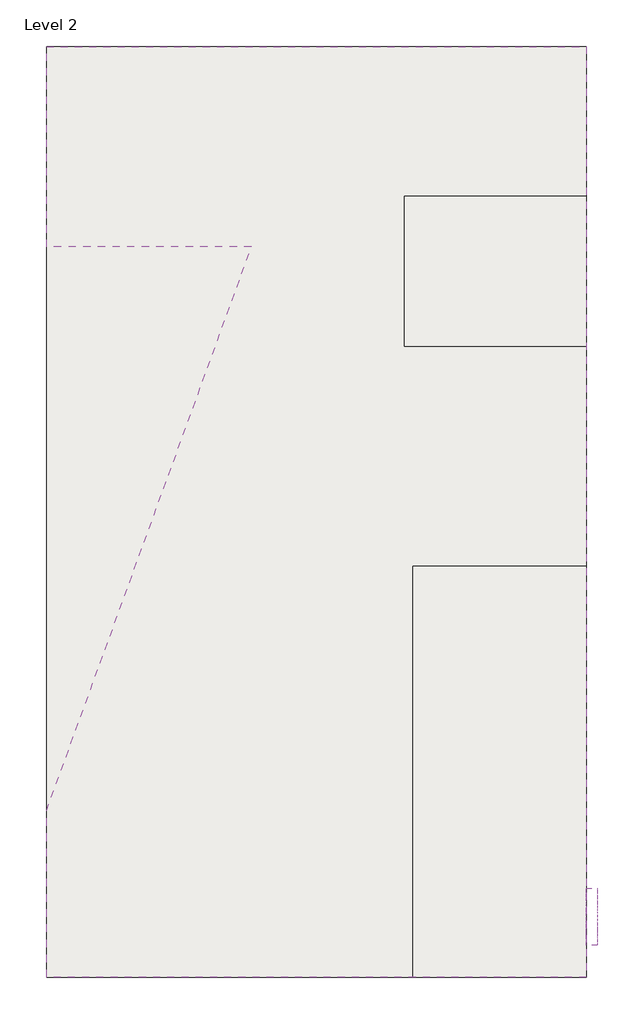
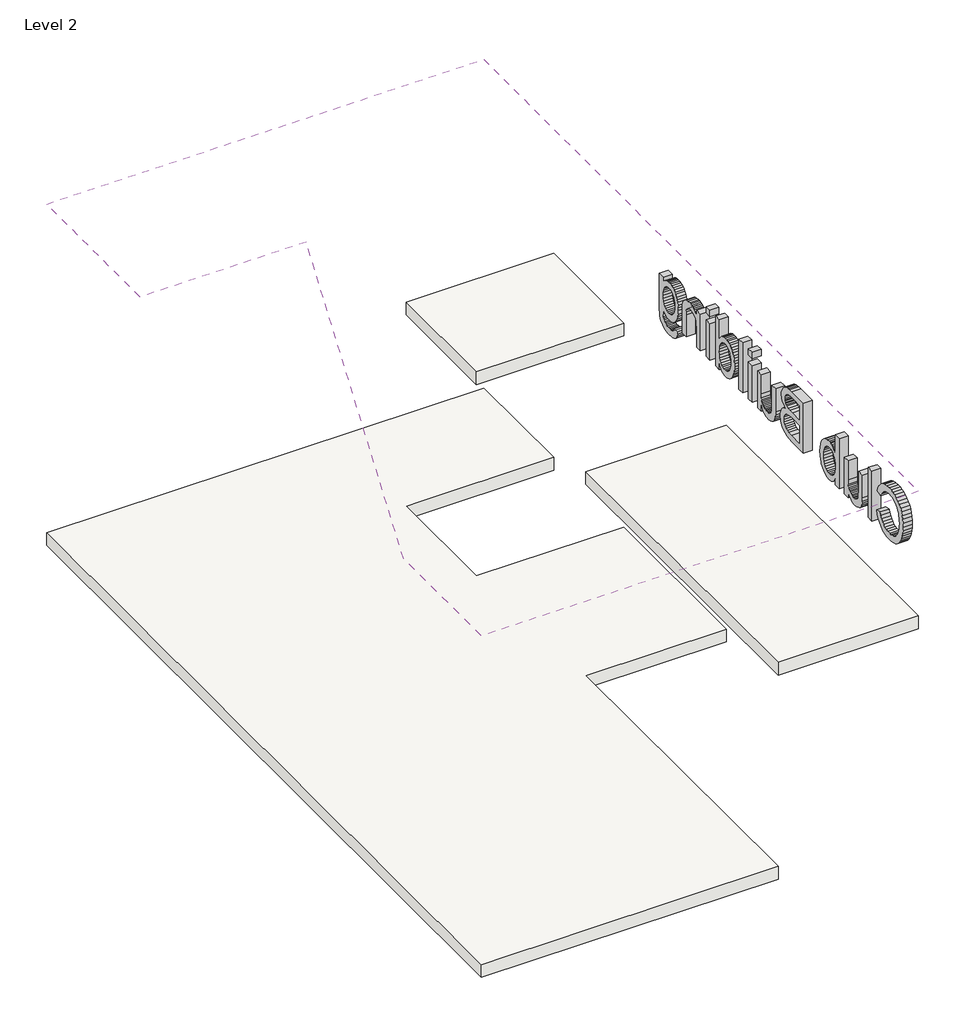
# One storey: 3 roofs, 1 proxy.
"""IFC4 building model written with IfcOpenShell, lengths in millimetres."""

from ifc_helpers import new_model, si_unit, frame, origin, place, context, project, spatial, polyline, outline, extrude, element, save

model = new_model("IFC4")

# Units and contexts
model_context = context("Model", 3, world=origin())
ifc_project = project(units=[si_unit("LENGTHUNIT", "METRE", prefix="MILLI")], contexts=[model_context])

# Site, building, storey
site = spatial("IfcSite", under=ifc_project)
building = spatial("IfcBuilding", under=site)
storey = spatial("IfcBuildingStorey", under=building, Name="Level 2", Elevation=3048.0)

# Proxy
placement = place(None, origin())
element("IfcBuildingElementProxy", 1, Name="36\" Arial", ObjectType="36\" Arial", at=placement, inside=storey, context=model_context, shape_type="SweptSolid", body=[
    extrude(outline(polyline([(3337.6745556, 4845.1334632), (3449.6192829, 4816.2727132), (3427.4681107, 4746.6557194), (3397.9650997, 4685.8254028), (3361.1102499, 4633.7817634), (3316.9035613, 4590.5248012), (3266.3425883, 4556.5191306), (3210.4248852, 4532.2293659), (3149.1504519, 4517.655507), (3082.5192886, 4512.7975541), (3014.2551424, 4516.4734735), (2952.6732438, 4527.5012316), (2897.7735927, 4545.8808286), (2849.5561891, 4571.6122643), (2807.3582744, 4604.3129152), (2770.5170897, 4643.6001578), (2739.0326352, 4689.4739919), (2712.9049107, 4741.9344177), (2692.3867213, 4798.7130239), (2677.7308717, 4857.5413993), (2668.9373619, 4918.4195438), (2666.006192, 4981.3474575), (2669.3199855, 5048.8668542), (2679.261366, 5111.9314191), (2695.8303335, 5170.5411525), (2719.026888, 5224.6960541), (2748.3317547, 5273.5010582), (2783.2256586, 5316.0610988), (2823.7085998, 5352.3761761), (2869.7805784, 5382.4462899), (2919.876937, 5406.025468), (2972.4330187, 5422.867738), (3027.4488234, 5432.9731001), (3084.9243511, 5436.3415541), (3148.9523076, 5431.9823783), (3207.6645293, 5418.904851), (3261.0610164, 5397.1089721), (3309.1417687, 5366.5947416), (3351.1142089, 5328.1684021), (3386.1857595, 5282.6361961), (3414.3564205, 5229.9981237), (3435.626192, 5170.2541848), (3323.6814647, 5143.5798552), (3306.0534498, 5187.6020646), (3284.8725016, 5225.2153289), (3260.1386203, 5256.4196484), (3231.8518056, 5281.2150228), (3199.8480762, 5300.1070621), (3163.9634505, 5313.6013758), (3124.1979285, 5321.6979641), (3080.5515102, 5324.3968268), (3030.3321654, 5321.4041638), (2984.4036707, 5312.4261748), (2942.7660261, 5297.4628598), (2905.4192318, 5276.5142189), (2872.8347344, 5250.5231457), (2845.483981, 5220.4325342), (2823.3669716, 5186.2423843), (2806.4837062, 5147.9526961), (2794.0006119, 5107.2989408), (2785.084116, 5066.0165896), (2779.7342184, 5024.1056425), (2777.9509193, 4981.5660995), (2780.0621815, 4928.1081194), (2786.3959683, 4878.148412), (2796.9522795, 4831.6869774), (2811.7311153, 4788.7238154), (2830.9716153, 4750.1129967), (2854.9129193, 4716.7085917), (2883.5550272, 4688.5106004), (2916.8979391, 4665.5190228), (2953.3223374, 4647.6791984), (2991.2089043, 4634.9364667), (3030.55764, 4627.2908277), (3071.3685443, 4624.7422814), (3120.0368971, 4628.2132238), (3164.8106884, 4638.6260512), (3205.6899184, 4655.9807636), (3242.6745869, 4680.2773609), (3274.8901258, 4711.4065221), (3301.4619668, 4749.2589262), (3322.3901101, 4793.8345733), (3337.6745556, 4845.1334632)])), frame((-622.4265962, 0.0, 0.0), z_axis=(1.0, 0.0, 0.0), x_axis=(0.0, 1.0, 0.0)), (0.0, 0.0, 1.0), 152.4),
    extrude(outline(polyline([(-470.0265962, 3701.4949193), (-470.0265962, 3589.550192), (-622.4265962, 3589.550192), (-622.4265962, 3701.4949193), (-470.0265962, 3701.4949193)])), frame((0.0, 0.0, 4526.790645), z_axis=(0.0, 0.0, 1.0), x_axis=(1.0, 0.0, 0.0)), (0.0, 0.0, 1.0), 895.5578182),
    extrude(outline(polyline([(4289.2047374, 4526.790645), (4289.2047374, 4639.8285825), (4269.7865908, 4610.0556852), (4248.7012985, 4584.2525076), (4225.9488607, 4562.4190496), (4201.5292772, 4544.5553112), (4175.4425482, 4530.6612925), (4147.6886735, 4520.7369934), (4118.2676533, 4514.7824139), (4087.1794874, 4512.7975541), (4032.6556274, 4518.3729262), (3981.9033426, 4535.0990427), (3939.3228042, 4560.2428779), (3922.7470041, 4574.9465555), (3909.3141835, 4591.0714064), (3889.1171245, 4628.5138566), (3875.9712715, 4673.4994575), (3871.0518255, 4715.9160143), (3869.4120102, 4777.5730711), (3869.4120102, 5184.4659177), (3981.3567374, 5184.4659177), (3981.3567374, 4830.2658041), (3983.0512133, 4759.4257814), (3988.1346409, 4716.1346564), (3994.8373861, 4695.9580951), (4004.4508035, 4678.0636102), (4016.9748932, 4662.4512016), (4032.4096551, 4649.1208694), (4050.2904748, 4638.4552371), (4070.1527382, 4630.8369284), (4091.996445, 4626.2659431), (4115.8215954, 4624.7422814), (4140.3573324, 4626.3001059), (4164.1141572, 4630.9735797), (4187.0920696, 4638.7627025), (4209.2910698, 4649.6674745), (4229.5086265, 4663.2574442), (4246.5422083, 4679.1021599), (4260.3918154, 4697.2016217), (4271.0574477, 4717.5558297), (4278.9968869, 4741.4629708), (4284.667915, 4770.2212324), (4289.2047374, 4842.2911166), (4289.2047374, 5184.4659177), (4401.1494647, 5184.4659177), (4401.1494647, 4526.790645), (4289.2047374, 4526.790645)])), frame((-622.4265962, 0.0, 0.0), z_axis=(1.0, 0.0, 0.0), x_axis=(0.0, 1.0, 0.0)), (0.0, 0.0, 1.0), 152.4),
    extrude(outline(polyline([(4667.018192, 4526.790645), (4555.0734647, 4526.790645), (4555.0734647, 5422.3484632), (4667.018192, 5422.3484632), (4667.018192, 5090.2311961), (4703.8320464, 5137.5808641), (4724.0222728, 5156.1825194), (4745.4013653, 5171.4020555), (4767.9693239, 5183.2394725), (4791.7261487, 5191.6947703), (4816.6718395, 5196.7679491), (4842.8063965, 5198.4590086), (4900.473236, 5192.3643616), (4954.9697659, 5174.0804206), (4980.2502524, 5160.6544325), (5003.1803369, 5144.7550562), (5023.7600194, 5126.3822918), (5041.9892999, 5105.5361393), (5072.4078745, 5056.8062934), (5095.4472801, 4998.9481422), (5109.9596458, 4934.366748), (5114.7971011, 4865.4671734), (5109.7888317, 4785.9634596), (5094.7640237, 4716.0253353), (5083.4954176, 4684.6433692), (5069.7226769, 4655.6528005), (5053.4458015, 4629.0536292), (5034.6647914, 4604.8458552), (4992.5830302, 4564.5747235), (4946.4700563, 4535.8096294), (4896.3258697, 4518.5505729), (4842.1504704, 4512.7975541), (4815.0217753, 4514.6525952), (4789.3894118, 4520.2177185), (4765.2533798, 4529.492924), (4742.6136792, 4542.4782118), (4721.4703102, 4559.1735817), (4701.8232726, 4579.5790338), (4683.6725665, 4603.6945682), (4667.018192, 4631.5201848), (4667.018192, 4526.790645)]), holes=[polyline([(4667.018192, 4860.2197643), (4668.9313099, 4809.7681123), (4674.6706636, 4766.8596109), (4684.2362531, 4731.4942601), (4697.6280784, 4703.6720598), (4724.7533571, 4669.1402817), (4756.278807, 4644.474726), (4792.2044281, 4629.6753925), (4832.5302204, 4624.7422814), (4866.0097836, 4628.3772054), (4897.1389448, 4639.2819774), (4925.9177041, 4657.4565974), (4952.3460613, 4682.9010654), (4974.442573, 4715.5470559), (4990.2257957, 4755.326243), (4999.6957293, 4802.2386269), (5002.8523738, 4856.2842075), (4999.825548, 4911.3546727), (4990.7450705, 4958.7180058), (4975.6109415, 4998.3742068), (4954.4231607, 5030.3232757), (4928.9445299, 5054.9068407), (4900.9378504, 5072.4665299), (4870.4031222, 5083.0023435), (4837.3403454, 5086.5142814), (4803.8607822, 5082.8793574), (4772.731621, 5071.9745853), (4743.9528617, 5053.7999653), (4717.5245045, 5028.3554973), (4695.4279928, 4996.0374699), (4679.6447701, 4957.242172), (4670.1748365, 4911.9696034), (4667.018192, 4860.2197643)])]), frame((-622.4265962, 0.0, 0.0), z_axis=(1.0, 0.0, 0.0), x_axis=(0.0, 1.0, 0.0)), (0.0, 0.0, 1.0), 152.4),
    extrude(outline(polyline([(5604.5552829, 4526.790645), (5604.5552829, 5422.3484632), (5946.2927999, 5422.3484632), (5995.8630512, 5420.7018153), (6040.2815492, 5415.7618716), (6079.5482941, 5407.528632), (6113.6632857, 5396.0020967), (6143.4942598, 5381.0592794), (6169.9089519, 5362.577194), (6192.9073621, 5340.5558405), (6212.4894903, 5314.9952189), (6228.1292291, 5287.3370001), (6239.3004711, 5259.0228552), (6246.0032163, 5230.0527842), (6248.2374647, 5200.426787), (6246.3585096, 5173.0623685), (6240.7216444, 5146.5041926), (6231.326869, 5120.7522592), (6218.1741835, 5095.8065683), (6201.2225924, 5072.4460322), (6180.4311004, 5051.4495633), (6155.7997074, 5032.8171615), (6127.3284136, 5016.5488268), (6161.1154422, 5002.1457821), (6190.761937, 4983.4245569), (6216.2678981, 4960.3851514), (6237.6333255, 4933.0275654), (6254.516591, 4902.1853719), (6266.5760663, 4868.6921436), (6273.8117515, 4832.5478804), (6276.2236465, 4793.7525825), (6274.5769986, 4761.9606626), (6269.6370549, 4731.3029483), (6261.4038154, 4701.7794396), (6249.8772801, 4673.3901365), (6220.3879342, 4624.1410157), (6203.2860267, 4604.3129152), (6184.6126295, 4587.6824547), (6140.8022296, 4561.2814277), (6087.2075982, 4542.2049092), (6022.0795989, 4530.644211), (5943.6690954, 4526.790645), (5604.5552829, 4526.790645)]), holes=[polyline([(5716.5000102, 5058.5280995), (5920.9303227, 5058.5280995), (5992.4262715, 5060.933162), (6040.3088795, 5068.1483495), (6082.0968404, 5084.7378147), (6098.5838172, 5096.1276988), (6112.1327914, 5109.5810172), (6122.7027678, 5125.0021139), (6130.2527509, 5142.2953332), (6134.7827408, 5161.460675), (6136.2927374, 5182.4981393), (6130.6627048, 5221.5257444), (6113.7726068, 5255.5245825), (6101.296345, 5270.0301157), (6086.3876906, 5282.0622608), (6069.0466433, 5291.6210177), (6049.2732034, 5298.7063865), (5992.3169505, 5307.4793985), (5905.4067374, 5310.4037359), (5716.5000102, 5310.4037359), (5716.5000102, 5058.5280995)]), polyline([(5716.5000102, 4638.7353723), (5946.0741579, 4638.7353723), (6029.1581352, 4643.1082132), (6067.7211259, 4652.8104539), (6099.4515528, 4667.4868012), (6125.2513141, 4688.5037679), (6146.0223085, 4717.2278666), (6159.7147666, 4752.3745754), (6164.2789193, 4792.6593723), (6158.9221891, 4839.44877), (6142.8519988, 4879.6789064), (6130.4782255, 4896.7808139), (6114.7838262, 4911.1360306), (6095.7688008, 4922.7445567), (6073.4331494, 4931.6063922), (6014.8644114, 4942.8391272), (5935.1420556, 4946.5833723), (5716.5000102, 4946.5833723), (5716.5000102, 4638.7353723)])]), frame((-622.4265962, 0.0, 0.0), z_axis=(1.0, 0.0, 0.0), x_axis=(0.0, 1.0, 0.0)), (0.0, 0.0, 1.0), 152.4),
    extrude(outline(polyline([(6835.9472829, 4526.790645), (6835.9472829, 4639.8285825), (6816.5291362, 4610.0556852), (6795.443844, 4584.2525076), (6772.6914061, 4562.4190496), (6748.2718227, 4544.5553112), (6722.1850936, 4530.6612925), (6694.431219, 4520.7369934), (6665.0101987, 4514.7824139), (6633.9220329, 4512.7975541), (6579.3981728, 4518.3729262), (6528.645888, 4535.0990427), (6486.0653497, 4560.2428779), (6469.4895496, 4574.9465555), (6456.0567289, 4591.0714064), (6435.85967, 4628.5138566), (6422.713817, 4673.4994575), (6417.794371, 4715.9160143), (6416.1545556, 4777.5730711), (6416.1545556, 5184.4659177), (6528.0992829, 5184.4659177), (6528.0992829, 4830.2658041), (6529.7937587, 4759.4257814), (6534.8771863, 4716.1346564), (6541.5799315, 4695.9580951), (6551.1933489, 4678.0636102), (6563.7174386, 4662.4512016), (6579.1522005, 4649.1208694), (6597.0330203, 4638.4552371), (6616.8952836, 4630.8369284), (6638.7389905, 4626.2659431), (6662.5641409, 4624.7422814), (6687.0998779, 4626.3001059), (6710.8567026, 4630.9735797), (6733.8346151, 4638.7627025), (6756.0336153, 4649.6674745), (6776.2511719, 4663.2574442), (6793.2847538, 4679.1021599), (6807.1343608, 4697.2016217), (6817.7999931, 4717.5558297), (6825.7394324, 4741.4629708), (6831.4104605, 4770.2212324), (6835.9472829, 4842.2911166), (6835.9472829, 5184.4659177), (6947.8920102, 5184.4659177), (6947.8920102, 4526.790645), (6835.9472829, 4526.790645)])), frame((-622.4265962, 0.0, 0.0), z_axis=(1.0, 0.0, 0.0), x_axis=(0.0, 1.0, 0.0)), (0.0, 0.0, 1.0), 152.4),
    extrude(outline(polyline([(-470.0265962, 7213.7607374), (-470.0265962, 7101.8160102), (-622.4265962, 7101.8160102), (-622.4265962, 7213.7607374), (-470.0265962, 7213.7607374)])), frame((0.0, 0.0, 4526.790645), z_axis=(0.0, 0.0, 1.0), x_axis=(1.0, 0.0, 0.0)), (0.0, 0.0, 1.0), 657.6752727),
    extrude(outline(polyline([(-470.0265962, 7213.7607374), (-470.0265962, 7101.8160102), (-622.4265962, 7101.8160102), (-622.4265962, 7213.7607374), (-470.0265962, 7213.7607374)])), frame((0.0, 0.0, 5310.4037359), z_axis=(0.0, 0.0, 1.0), x_axis=(1.0, 0.0, 0.0)), (0.0, 0.0, 1.0), 111.9447273),
    extrude(outline(polyline([(-470.0265962, 7493.6225556), (-470.0265962, 7381.6778284), (-622.4265962, 7381.6778284), (-622.4265962, 7493.6225556), (-470.0265962, 7493.6225556)])), frame((0.0, 0.0, 4526.790645), z_axis=(0.0, 0.0, 1.0), x_axis=(1.0, 0.0, 0.0)), (0.0, 0.0, 1.0), 895.5578182),
    extrude(outline(polyline([(8067.3392829, 4526.790645), (8067.3392829, 4632.3947529), (8051.4774858, 4604.3641595), (8033.8460546, 4580.0709784), (8014.4449893, 4559.5152099), (7993.27429, 4542.6968538), (7970.3339566, 4529.6159102), (7945.6239892, 4520.272379), (7919.1443877, 4514.6662603), (7890.8951522, 4512.7975541), (7853.9446465, 4515.5032494), (7818.5246352, 4523.6203353), (7784.6351181, 4537.1488119), (7752.2760954, 4556.0886791), (7722.4587864, 4579.8728341), (7696.1944107, 4607.9341741), (7673.4829683, 4640.2726991), (7654.324459, 4676.8884092), (7639.1151717, 4717.0843827), (7628.2513951, 4760.1636983), (7621.7331291, 4806.1263558), (7619.5603738, 4854.9723552), (7621.562315, 4902.9232888), (7627.5681387, 4948.6058112), (7637.5778449, 4992.0199223), (7651.5914335, 5033.1656223), (7669.602072, 5070.8403797), (7691.6029278, 5103.8416635), (7717.5940009, 5132.1694735), (7747.5752914, 5155.8238098), (7780.4877518, 5174.4767093), (7815.2723347, 5187.8002089), (7851.9290402, 5195.7943087), (7890.4578681, 5198.4590086), (7918.6353617, 5196.5527233), (7945.2277005, 5190.8338673), (7970.2348845, 5181.3024406), (7993.6569136, 5167.9584433), (8034.7069576, 5132.8937253), (8067.3392829, 5088.7007018), (8067.3392829, 5422.3484632), (8179.2840102, 5422.3484632), (8179.2840102, 4526.790645), (8067.3392829, 4526.790645)]), holes=[polyline([(7731.5051011, 4855.4096393), (7734.6617456, 4801.124919), (7744.1316792, 4754.151042), (7759.9149019, 4714.4880085), (7782.0114136, 4682.1358183), (7808.3987754, 4657.0261459), (7837.0545485, 4639.0906656), (7867.9787328, 4628.3293774), (7901.1713284, 4624.7422814), (7934.5210728, 4628.1653959), (7965.2607779, 4638.4347395), (7993.3904436, 4655.5503121), (8018.9100698, 4679.5121137), (8040.0978505, 4710.5114563), (8055.2319796, 4748.7396514), (8064.3124571, 4794.1966991), (8067.3392829, 4846.8825995), (8064.2577966, 4904.6450949), (8055.0133376, 4954.1811833), (8039.6059059, 4995.4908648), (8018.0355016, 5028.5741393), (7991.9556052, 5053.9229515), (7963.019697, 5072.0292458), (7931.227777, 5082.8930225), (7896.5798454, 5086.5142814), (7862.7313237, 5083.0365063), (7831.8071394, 5072.6031812), (7803.8072925, 5055.214306), (7778.7317829, 5030.8698808), (7758.0701096, 4999.0369655), (7743.3117715, 4959.1826201), (7734.4567687, 4911.3068447), (7731.5051011, 4855.4096393)])]), frame((-622.4265962, 0.0, 0.0), z_axis=(1.0, 0.0, 0.0), x_axis=(0.0, 1.0, 0.0)), (0.0, 0.0, 1.0), 152.4),
    extrude(outline(polyline([(-470.0265962, 8459.1458284), (-470.0265962, 8347.2011011), (-622.4265962, 8347.2011011), (-622.4265962, 8459.1458284), (-470.0265962, 8459.1458284)])), frame((0.0, 0.0, 4526.790645), z_axis=(0.0, 0.0, 1.0), x_axis=(1.0, 0.0, 0.0)), (0.0, 0.0, 1.0), 657.6752727),
    extrude(outline(polyline([(-470.0265962, 8459.1458284), (-470.0265962, 8347.2011011), (-622.4265962, 8347.2011011), (-622.4265962, 8459.1458284), (-470.0265962, 8459.1458284)])), frame((0.0, 0.0, 5310.4037359), z_axis=(0.0, 0.0, 1.0), x_axis=(1.0, 0.0, 0.0)), (0.0, 0.0, 1.0), 111.9447273),
    extrude(outline(polyline([(8627.0629193, 4526.790645), (8627.0629193, 5184.4659177), (8739.0076465, 5184.4659177), (8739.0076465, 5092.6362586), (8757.4760668, 5117.4384657), (8777.8986004, 5138.9337118), (8800.2752472, 5157.1219969), (8824.6060073, 5172.0033211), (8850.8908807, 5183.5776844), (8879.1298674, 5191.8450868), (8909.3229674, 5196.8055282), (8941.4701806, 5198.4590086), (8996.6499668, 5193.1296088), (9047.1836096, 5177.1414092), (9089.3268639, 5152.4895186), (9105.8480034, 5137.6628549), (9119.3354846, 5121.1690456), (9139.6965251, 5083.2619809), (9152.8970386, 5038.8503154), (9157.32454, 4996.3790981), (9158.8003738, 4930.6225029), (9158.8003738, 4526.790645), (9046.8556465, 4526.790645), (9046.8556465, 4915.5362018), (9043.6306764, 4973.4216833), (9033.9557659, 5014.5810484), (9016.1091089, 5044.0703943), (8988.3688994, 5066.9458183), (8952.8122367, 5081.6221656), (8911.5162204, 5086.5142814), (8877.5242149, 5083.7675907), (8845.950937, 5075.5275186), (8816.7963868, 5061.7940651), (8790.0605641, 5042.5672302), (8767.7249127, 5015.6605935), (8751.7708759, 4978.8877345), (8742.1984539, 4932.2486532), (8739.0076465, 4875.7433495), (8739.0076465, 4526.790645), (8627.0629193, 4526.790645)])), frame((-622.4265962, 0.0, 0.0), z_axis=(1.0, 0.0, 0.0), x_axis=(0.0, 1.0, 0.0)), (0.0, 0.0, 1.0), 152.4),
    extrude(outline(polyline([(9284.738192, 4470.8182814), (9396.6829193, 4456.8251904), (9401.4110535, 4437.967314), (9409.0361948, 4421.8424632), (9419.5583433, 4408.4506379), (9432.9774988, 4397.7918382), (9454.6913869, 4386.8870662), (9480.0401991, 4379.0979433), (9509.0239352, 4374.4244696), (9541.6425954, 4372.866645), (9576.5979924, 4374.6294465), (9607.3445301, 4379.917851), (9633.8822083, 4388.7318584), (9656.2110272, 4401.0714689), (9674.7956011, 4416.5950541), (9690.1005443, 4434.9609859), (9702.1258568, 4456.1692643), (9710.8715386, 4480.2198893), (9716.9388553, 4528.3757998), (9718.5240102, 4610.7491904), (9681.2728717, 4574.0173268), (9639.7035528, 4547.7802814), (9593.8160535, 4532.0380541), (9543.6103738, 4526.790645), (9512.0046412, 4528.317723), (9482.2334521, 4532.8989571), (9454.2968064, 4540.5343473), (9428.1947041, 4551.2238936), (9403.9271452, 4564.9675959), (9381.4941297, 4581.7654543), (9360.8956576, 4601.6174688), (9342.1317289, 4624.5236393), (9310.9000792, 4675.8225292), (9288.591758, 4731.9862047), (9275.2067653, 4793.0146656), (9270.7451011, 4858.907912), (9272.7470423, 4905.0072208), (9278.752866, 4949.2890676), (9288.7625721, 4991.7534523), (9302.7761607, 5032.4003751), (9320.5818223, 5069.8769882), (9341.9677474, 5102.830444), (9366.9339359, 5131.2607425), (9395.480388, 5155.1678836), (9427.1493218, 5174.1077508), (9461.4829555, 5187.6362274), (9498.4812891, 5195.7533133), (9538.1443227, 5198.4590086), (9564.924557, 5196.9285143), (9590.4954274, 5192.3370314), (9614.8569341, 5184.6845598), (9638.0090769, 5173.9710995), (9659.951856, 5160.1966507), (9680.6852712, 5143.3612132), (9718.5240102, 5100.5073723), (9718.5240102, 5184.4659177), (9830.4687374, 5184.4659177), (9830.4687374, 4616.6525257), (9828.5556195, 4545.5050376), (9822.8162659, 4485.5492892), (9813.2506764, 4436.7852805), (9799.8588511, 4399.2130115), (9782.3196595, 4368.9105905), (9760.3119711, 4341.9561258), (9733.8357859, 4318.3496175), (9702.8911039, 4298.0910654), (9667.7922231, 4281.8295633), (9628.8534413, 4270.2142047), (9586.0747586, 4263.2449895), (9539.4561749, 4260.9219177), (9484.6111844, 4264.1947158), (9435.3005705, 4274.0131102), (9391.5243335, 4290.3771008), (9353.2824732, 4313.2866876), (9322.3924518, 4342.7692009), (9300.671731, 4378.851971), (9288.1203111, 4421.5349978), (9284.738192, 4470.8182814)]), holes=[polyline([(9382.6898284, 4866.5603836), (9385.6756588, 4811.2097833), (9394.6331501, 4763.880613), (9409.5623022, 4724.5728728), (9430.4631153, 4693.2865626), (9455.8734205, 4669.4204168), (9484.3310492, 4652.3731699), (9515.8360015, 4642.1448217), (9550.3882772, 4638.7353723), (9584.5989248, 4642.124324), (9615.9535606, 4652.2911791), (9644.4521847, 4669.2359376), (9670.0947971, 4692.9585995), (9691.2825778, 4723.9374444), (9706.4167069, 4762.6507515), (9715.4971844, 4809.0985211), (9718.5240102, 4863.2807529), (9715.408361, 4915.2014062), (9706.0614136, 4960.3304909), (9690.4831678, 4998.668007), (9668.6736238, 5030.2139547), (9642.4775737, 5054.8453476), (9613.7398099, 5072.4391997), (9582.4603323, 5082.9955109), (9548.6391409, 5086.5142814), (9515.3850522, 5083.0501715), (9484.7136728, 5072.6578417), (9456.6250025, 5055.3372922), (9431.1190414, 5031.0885228), (9409.9312607, 5000.0208547), (9394.7971316, 4962.2436088), (9385.7166542, 4917.7567851), (9382.6898284, 4866.5603836)])]), frame((-622.4265962, 0.0, 0.0), z_axis=(1.0, 0.0, 0.0), x_axis=(0.0, 1.0, 0.0)), (0.0, 0.0, 1.0), 152.4),
])

# Roofs
element("IfcRoof", 2, ObjectType="Generic - 9\"", at=placement, inside=storey, context=model_context, shape_type="SweptSolid", body=[
    extrude(outline(polyline([(-622.4265962, 14992.5728951), (-622.4265962, 2224.5542041), (-8031.2536198, 2224.5542041), (-8031.2536198, 4510.5542041), (-5216.5646482, 12243.8485961), (-8031.2536198, 12243.8485961), (-8031.2536198, 14992.5728951), (-622.4265962, 14992.5728951)])), frame((0.0, 0.0, 5891.4243608), z_axis=(0.0, 0.0, 1.0), x_axis=(1.0, 0.0, 0.0)), (0.0, 0.0, 1.0), 228.6),
])
element("IfcRoof", 3, ObjectType="Generic - 9\"", at=placement, inside=storey, context=model_context, shape_type="SweptSolid", body=[
    extrude(outline(polyline([(-3002.0536198, 2224.5542041), (-3002.0536198, 7863.3542041), (-622.4265962, 7863.3542041), (-622.4265962, 2224.5542041), (-3002.0536198, 2224.5542041)])), frame((0.0, 0.0, 3429.0), z_axis=(0.0, 0.0, 1.0), x_axis=(1.0, 0.0, 0.0)), (0.0, 0.0, 1.0), 228.6),
    extrude(outline(polyline([(-3119.607438, 12938.7637381), (-622.4265962, 12938.7637381), (-622.4265962, 10878.7983929), (-3119.607438, 10878.7983929), (-3119.607438, 12938.7637381)])), frame((0.0, 0.0, 3429.0), z_axis=(0.0, 0.0, 1.0), x_axis=(1.0, 0.0, 0.0)), (0.0, 0.0, 1.0), 228.6),
])
element("IfcRoof", 4, ObjectType="Generic - 9\"", at=placement, inside=storey, context=model_context, shape_type="SweptSolid", body=[
    extrude(outline(polyline([(-8031.2536198, 2224.5542041), (-8031.2536198, 14992.5728951), (-622.4265962, 14992.5728951), (-622.4265962, 12938.7637381), (-3119.607438, 12938.7637381), (-3119.607438, 10878.7983929), (-622.4265962, 10878.7983929), (-622.4265962, 7863.3542041), (-3002.0536198, 7863.3542041), (-3002.0536198, 2224.5542041), (-8031.2536198, 2224.5542041)])), frame((0.0, 0.0, -228.6), z_axis=(0.0, 0.0, 1.0), x_axis=(1.0, 0.0, 0.0)), (0.0, 0.0, 1.0), 228.6),
])

save(model, "model.ifc")
